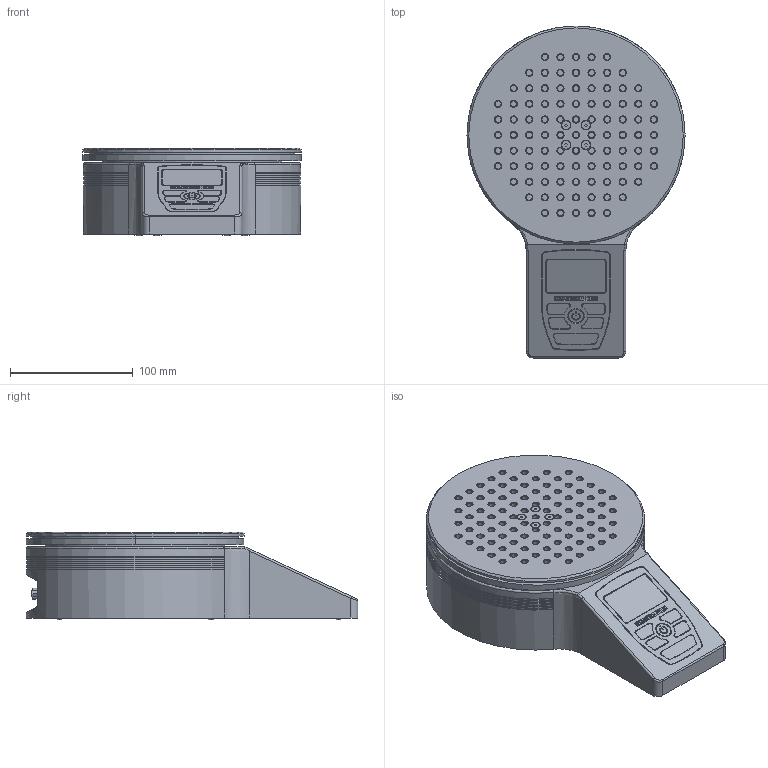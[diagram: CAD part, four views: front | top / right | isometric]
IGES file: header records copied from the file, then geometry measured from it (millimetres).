
Global section: file name: No Iges File Name specified; native system: Autodesk Inventor 2010; preprocessor: AutoDesk Inventor Iges Exporter R2010; author: mlampen; date: 20170405.160948; units: inch
Bounding box: 177.8 x 270.51 x 71.58 mm (x, y, z)
Volume: 1985770.8 mm3; surface area: 149454.9 mm2
Topology: 1 solids, 4 shells, 1345 faces, 3029 edges, 1892 vertices
Faces by surface type: revolution 546, plane 516, bspline 126, cylinder 110, cone 20, torus 15, sphere 12
